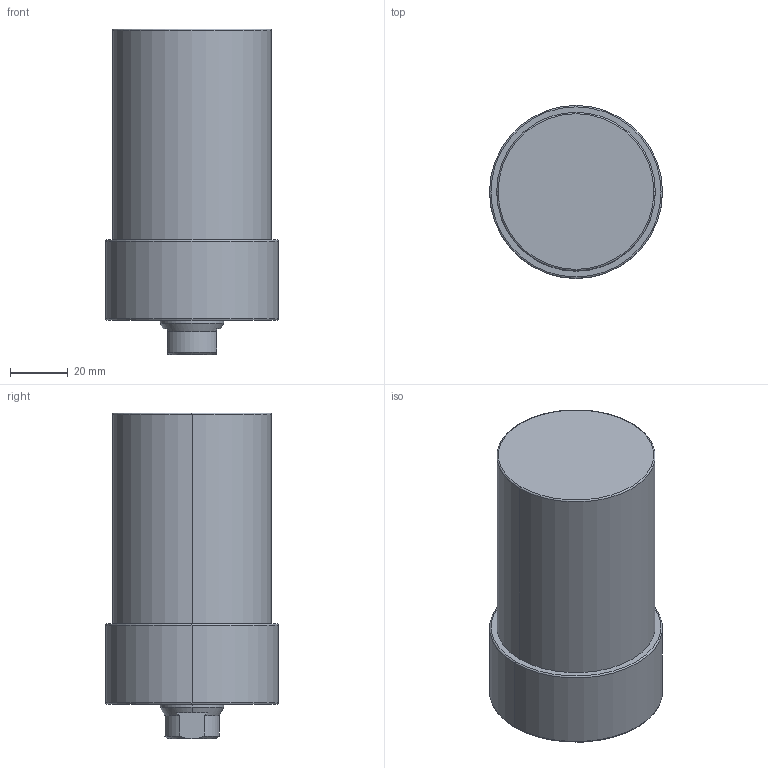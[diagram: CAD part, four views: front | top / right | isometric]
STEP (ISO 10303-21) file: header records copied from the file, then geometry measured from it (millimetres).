
FILE_DESCRIPTION (( 'STEP AP203' ), '1' );
FILE_NAME ('CLLU055-CA-070.STEP', '2017-05-12T11:09:16', ( '' ), ( '' ), 'SwSTEP 2.0', 'SolidWorks 2015', '' );
FILE_SCHEMA (( 'CONFIG_CONTROL_DESIGN' ));
Length unit declared in the file: millimetre
Products named in the file (1): CLLU055-CA-070
Bounding box: 60 x 60 x 113 mm (x, y, z)
Volume: 252936.6 mm3; surface area: 25936.1 mm2
Topology: 1 solids, 1 shells, 62 faces, 138 edges, 77 vertices
Faces by surface type: cone 24, cylinder 22, plane 10, torus 6
Entity records: 1745 total; most frequent: DIRECTION 318, CARTESIAN_POINT 308, ORIENTED_EDGE 256, AXIS2_PLACEMENT_3D 135, EDGE_CURVE 128, VERTEX_POINT 77, CIRCLE 72, EDGE_LOOP 71
